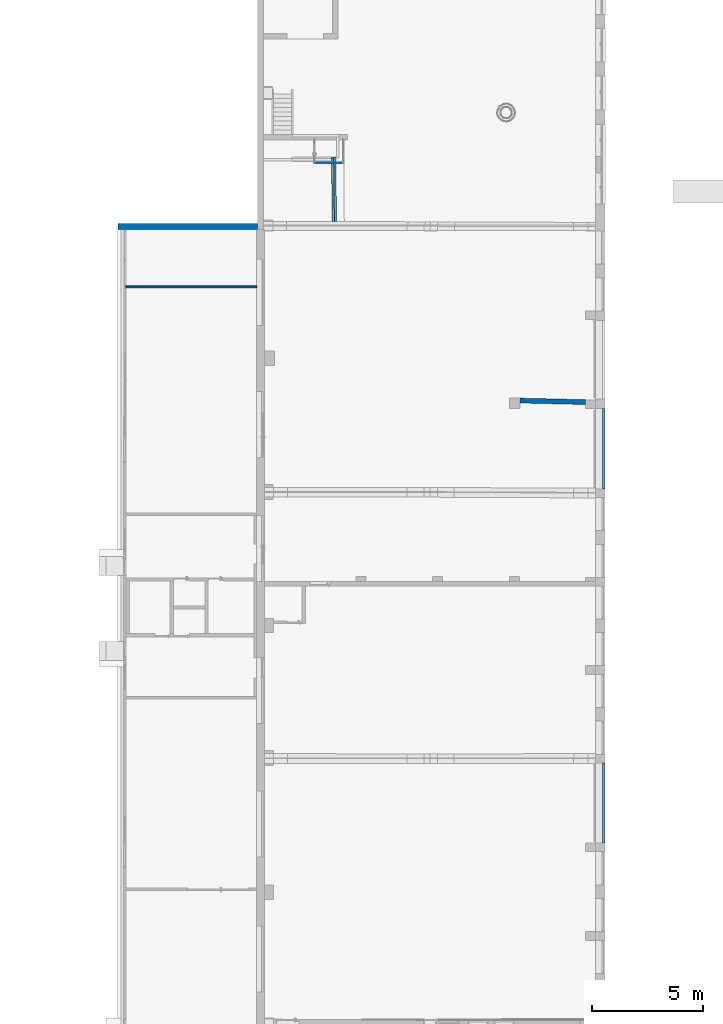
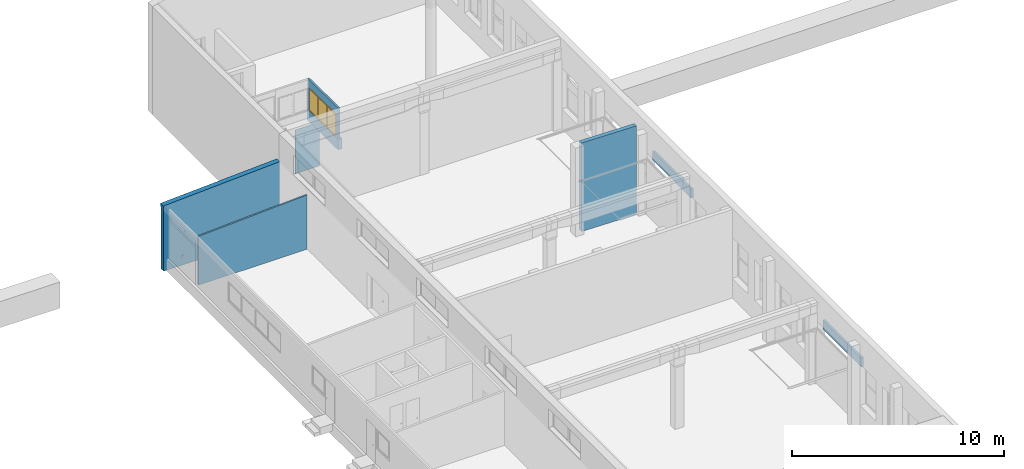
# One storey, part 154 of 301: 8 walls, 1 window, 1 opening.
"""IFC2X3 building model written with IfcOpenShell, lengths in millimetres."""

from ifc_helpers import new_model, entity, si_unit, converted_unit, derived_unit, money_unit, direction, frame, origin_with_axes, place, context, subcontext, project, spatial, open_shell, faceted_brep, surface_model, material, type_object, element, fill, save


model = new_model("IFC2X3")

# Units and contexts
model_context = context("Model", 3, precision=0.01, world=origin_with_axes(), true_north=direction((0.0, 1.0)))
body_context = subcontext(model_context, "Body", "Model", "MODEL_VIEW")
ifc_project = project(units=[si_unit("LENGTHUNIT", "METRE", prefix="MILLI"), si_unit("AREAUNIT", "SQUARE_METRE"), si_unit("VOLUMEUNIT", "CUBIC_METRE"), converted_unit("PLANEANGLEUNIT", "DEGREE", entity("IfcPlaneAngleMeasure", 0.0174532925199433), si_unit("PLANEANGLEUNIT", "RADIAN"), dimensions=[0, 0, 0, 0, 0, 0, 0]), money_unit("EUR"), converted_unit("TIMEUNIT", "Year", entity("IfcTimeMeasure", 31557600.0), si_unit("TIMEUNIT", "SECOND"), dimensions=[0, 0, 1, 0, 0, 0, 0]), si_unit("MASSUNIT", "GRAM", prefix="KILO"), si_unit("THERMODYNAMICTEMPERATUREUNIT", "DEGREE_CELSIUS"), si_unit("LUMINOUSINTENSITYUNIT", "LUMEN"), si_unit("ENERGYUNIT", "JOULE", prefix="MEGA"), derived_unit("THERMALCONDUCTANCEUNIT", [(si_unit("POWERUNIT", "WATT"), 1), (si_unit("LENGTHUNIT", "METRE"), -1), (si_unit("THERMODYNAMICTEMPERATUREUNIT", "KELVIN"), -1)]), derived_unit("SPECIFICHEATCAPACITYUNIT", [(si_unit("ENERGYUNIT", "JOULE"), 1), (si_unit("MASSUNIT", "GRAM", prefix="KILO"), -1), (si_unit("THERMODYNAMICTEMPERATUREUNIT", "KELVIN"), -1)]), derived_unit("MASSDENSITYUNIT", [(si_unit("MASSUNIT", "GRAM", prefix="KILO"), 1), (si_unit("VOLUMEUNIT", "CUBIC_METRE"), -1)])], contexts=[model_context])

# Site, building, storey
site_placement = place(None, frame((0.0, 0.0, 8650.0), z_axis=(0.0, 0.0, 1.0), x_axis=(1.0, 0.0, 0.0)))
site = spatial("IfcSite", under=ifc_project, at=site_placement, Name="43301:001:0844", CompositionType="ELEMENT")
building_placement = place(site_placement, origin_with_axes())
building = spatial("IfcBuilding", under=site, at=building_placement, Name="Kuressaare Ametikooli tuulikute mehaanikute õppekorpus", CompositionType="ELEMENT")
storey_placement = place(building_placement, origin_with_axes())
storey = spatial("IfcBuildingStorey", under=building, at=storey_placement, Name="1.korrus", CompositionType="ELEMENT", Elevation=0.0)

# Wall
ifc_material = material(Name="GENEERILINE - KONSTRUKTRIOON")
wall_type_1 = type_object("IfcWallType", Name="GENEERILINE - KONSTRUKTRIOON 200", PredefinedType="NOTDEFINED")
wall_1_placement = place(storey_placement, frame((91489.2846383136, 113585.0413980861, 2360.0), z_axis=(0.0, 0.0, 1.0), x_axis=(0.006282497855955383, -0.9999802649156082, 0.0)))
element("IfcWall", 1, at=wall_1_placement, inside=storey, type_object=wall_type_1, material=ifc_material, Name="SS-XX", context=body_context, shape_type="Brep", body=[
    faceted_brep([(-1.256524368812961, -200.0000000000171, 620.0000000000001), (2908.844766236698, -200.0000000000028, 620.0000000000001), (2910.774917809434, 0.0, 620.0000000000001), (0.0, 0.0, 620.0000000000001), (-1.256524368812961, -200.0000000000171, 0.0), (2908.844766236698, -200.0000000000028, 0.0), (2910.774917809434, 0.0, 0.0), (0.0, 0.0, 0.0)], [[[0, 1, 2, 3]], [[4, 5, 1, 0]], [[5, 6, 2, 1]], [[3, 2, 6, 7]], [[4, 0, 3, 7]], [[7, 6, 5, 4]]]),
])

# Wall, opening, window
wall_type_2 = type_object("IfcWallType", Name="GENEERILINE - KONSTRUKTRIOON 100", PredefinedType="NOTDEFINED")
wall_2_placement = place(storey_placement, frame((91383.90487116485, 113513.337023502, 2980.0), z_axis=(0.0, 0.0, 1.0), x_axis=(0.01138292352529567, -0.9999352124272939, 0.0)))
wall_2 = element("IfcWall", 2, at=wall_2_placement, inside=storey, type_object=wall_type_2, material=ifc_material, Name="SS-XX", context=body_context, shape_type="Brep", body=[
    faceted_brep([(142.8256483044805, 0.0, 1340.046836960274), (142.8256483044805, 0.0, 0.0), (0.0, 0.0, 0.0), (0.0, 0.0, 1780.000000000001), (2838.761730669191, 0.0, 1780.000000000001), (2838.761730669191, 0.0, 0.0), (2652.825648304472, 0.0, 0.0), (2652.825648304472, 0.0, 1340.046836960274), (142.8256483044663, -99.9999999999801, 1340.046836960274), (142.8256483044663, -99.9999999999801, 0.0), (-1.1383661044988, -99.9999999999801, 0.0), (-1.1383661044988, -99.9999999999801, 1780.000000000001), (2838.761730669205, -99.99999999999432, 1780.000000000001), (2838.761730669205, -99.99999999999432, 0.0), (2652.825648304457, -99.99999999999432, 0.0), (2652.825648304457, -99.9999999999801, 1340.046836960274)], [[[0, 1, 2, 3, 4, 5, 6, 7]], [[1, 0, 8, 9]], [[1, 9, 10, 2]], [[11, 3, 2, 10]], [[12, 4, 3, 11]], [[12, 13, 5, 4]], [[14, 6, 5, 13]], [[7, 6, 14, 15]], [[0, 7, 15, 8]], [[15, 14, 13, 12, 11, 10, 9, 8]]]),
])
opening_placement = place(wall_2_placement, frame((1397.825648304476, 0.0, 0.0), z_axis=(0.0, 0.0, 1.0), x_axis=(1.0, 0.0, 0.0)))
opening = element("IfcOpeningElement", 3, at=opening_placement, cuts=wall_2, Name="SA-XX", context=body_context, shape_type="Brep", body=[
    faceted_brep([(-1255.00000000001, -133.3113141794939, 1340.046836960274), (-1255.00000000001, -133.3113141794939, 0.0), (1254.999999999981, -133.3113141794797, 0.0), (1254.999999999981, -133.3113141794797, 1340.046836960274), (-1254.999999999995, 33.31131417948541, 1340.046836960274), (-1254.999999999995, 33.31131417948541, 0.0), (1254.999999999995, 33.31131417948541, 0.0), (1254.999999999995, 33.31131417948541, 1340.046836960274)], [[[0, 1, 2, 3]], [[4, 5, 1, 0]], [[5, 6, 2, 1]], [[6, 7, 3, 2]], [[7, 4, 0, 3]], [[6, 5, 4, 7]]]),
])
window_style = type_object("IfcWindowStyle", Name="Triple Window 27", ConstructionType="NOTDEFINED", OperationType="TRIPLE_PANEL_VERTICAL", ParameterTakesPrecedence=False, Sizeable=False)
window_placement = place(opening_placement, frame((1254.999999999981, 0.0, 0.0), z_axis=(0.0, 0.0, 1.0), x_axis=(-1.0, 0.0, 0.0)))
window = element("IfcWindow", 4, at=window_placement, inside=storey, type_object=window_style, Name="SA-XX", OverallHeight=1340.05, OverallWidth=2510.0, context=body_context, shape_type="SurfaceModel", body=[
    faceted_brep([(25.00000000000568, 75.00000000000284, 1290.046836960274), (0.0, 74.99999999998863, 1290.046836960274), (0.0, 0.0, 1290.046836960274), (49.99999999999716, 0.0, 1290.046836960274), (50.00000000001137, 49.99999999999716, 1290.046836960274), (25.00000000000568, 50.00000000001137, 1290.046836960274), (25.00000000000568, 75.00000000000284, 50.00000000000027), (0.0, 75.00000000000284, 50.00000000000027), (0.0, 0.0, 49.99999999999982), (49.99999999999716, 0.0, 49.99999999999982), (50.00000000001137, 49.99999999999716, 50.00000000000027), (25.00000000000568, 50.00000000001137, 50.00000000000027)], [[[0, 1, 2, 3, 4, 5]], [[6, 7, 1, 0]], [[1, 7, 8, 2]], [[2, 8, 9, 3]], [[4, 3, 9, 10]], [[10, 11, 5, 4]], [[5, 11, 6, 0]], [[11, 10, 9, 8, 7, 6]]]),
    faceted_brep([(2459.999999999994, 50.00000000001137, 1290.046836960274), (2459.999999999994, 0.0, 1290.046836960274), (2509.999999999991, 0.0, 1290.046836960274), (2509.999999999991, 75.00000000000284, 1290.046836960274), (2485.0, 75.00000000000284, 1290.046836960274), (2485.0, 49.99999999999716, 1290.046836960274), (2459.999999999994, 50.00000000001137, 50.00000000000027), (2459.999999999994, 0.0, 49.99999999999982), (2509.999999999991, 0.0, 49.99999999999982), (2509.999999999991, 75.00000000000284, 50.00000000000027), (2485.0, 75.00000000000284, 50.00000000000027), (2485.0, 49.99999999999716, 50.00000000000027)], [[[0, 1, 2, 3, 4, 5]], [[6, 7, 1, 0]], [[8, 2, 1, 7]], [[9, 3, 2, 8]], [[4, 3, 9, 10]], [[10, 11, 5, 4]], [[5, 11, 6, 0]], [[11, 10, 9, 8, 7, 6]]]),
    faceted_brep([(1629.999999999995, 49.99999999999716, 1290.046836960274), (1629.999999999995, 0.0, 1290.046836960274), (1710.000000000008, 0.0, 1290.046836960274), (1710.000000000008, 50.00000000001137, 1290.046836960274), (1684.999999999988, 49.99999999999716, 1290.046836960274), (1685.000000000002, 75.00000000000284, 1290.046836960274), (1655.000000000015, 74.99999999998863, 1290.046836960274), (1655.000000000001, 49.99999999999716, 1290.046836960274), (1629.999999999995, 49.99999999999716, 50.00000000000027), (1629.999999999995, 0.0, 49.99999999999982), (1710.000000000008, 0.0, 49.99999999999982), (1710.000000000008, 50.00000000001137, 50.00000000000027), (1684.999999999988, 49.99999999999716, 50.00000000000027), (1685.000000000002, 75.00000000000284, 50.00000000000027), (1655.000000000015, 74.99999999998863, 50.00000000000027), (1655.000000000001, 49.99999999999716, 50.00000000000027)], [[[0, 1, 2, 3, 4, 5, 6, 7]], [[8, 9, 1, 0]], [[10, 2, 1, 9]], [[3, 2, 10, 11]], [[11, 12, 4, 3]], [[4, 12, 13, 5]], [[6, 5, 13, 14]], [[14, 15, 7, 6]], [[7, 15, 8, 0]], [[15, 14, 13, 12, 11, 10, 9, 8]]]),
    faceted_brep([(855.000000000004, 75.00000000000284, 1290.046836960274), (825.0000000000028, 75.00000000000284, 1290.046836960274), (825.000000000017, 50.00000000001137, 1290.046836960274), (800.0000000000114, 49.99999999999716, 1290.046836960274), (800.0000000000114, 0.0, 1290.046836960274), (880.0000000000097, 0.0, 1290.046836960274), (880.0000000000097, 49.99999999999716, 1290.046836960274), (855.000000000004, 49.99999999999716, 1290.046836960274), (855.000000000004, 75.00000000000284, 50.00000000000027), (825.0000000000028, 75.00000000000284, 50.00000000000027), (825.000000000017, 50.00000000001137, 50.00000000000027), (800.0000000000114, 49.99999999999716, 50.00000000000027), (800.0000000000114, 0.0, 49.99999999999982), (880.0000000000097, 0.0, 49.99999999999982), (880.0000000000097, 49.99999999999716, 50.00000000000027), (855.000000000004, 49.99999999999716, 50.00000000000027)], [[[0, 1, 2, 3, 4, 5, 6, 7]], [[8, 9, 1, 0]], [[9, 10, 2, 1]], [[2, 10, 11, 3]], [[11, 12, 4, 3]], [[4, 12, 13, 5]], [[6, 5, 13, 14]], [[14, 15, 7, 6]], [[7, 15, 8, 0]], [[15, 14, 13, 12, 11, 10, 9, 8]]]),
    faceted_brep([(1629.999999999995, 49.99999999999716, 50.00000000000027), (1629.999999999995, 0.0, 49.99999999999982), (1710.000000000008, 0.0, 49.99999999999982), (1710.000000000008, 50.00000000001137, 50.00000000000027), (1684.999999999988, 49.99999999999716, 50.00000000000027), (1685.000000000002, 75.00000000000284, 50.00000000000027), (1655.000000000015, 74.99999999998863, 50.00000000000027), (1655.000000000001, 49.99999999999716, 50.00000000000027), (880.0000000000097, 49.99999999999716, 50.00000000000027), (880.0000000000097, 0.0, 49.99999999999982), (0.0, 0.0, 49.99999999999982), (0.0, 0.0, 0.0), (2509.999999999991, 0.0, 0.0), (2509.999999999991, 0.0, 49.99999999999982), (2459.999999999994, 0.0, 49.99999999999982), (800.0000000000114, 0.0, 49.99999999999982), (49.99999999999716, 0.0, 49.99999999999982), (2459.999999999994, 50.00000000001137, 50.00000000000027), (2485.0, 49.99999999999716, 50.00000000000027), (2485.0, 49.99999999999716, 24.99999999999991), (1684.999999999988, 49.99999999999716, 24.99999999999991), (1685.000000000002, 75.00000000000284, 24.99999999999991), (855.000000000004, 75.00000000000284, 24.99999999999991), (1655.000000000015, 74.99999999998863, 24.99999999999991), (2485.0, 75.00000000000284, 24.99999999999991), (2485.0, 75.00000000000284, 50.00000000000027), (2509.999999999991, 75.00000000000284, 50.00000000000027), (2509.999999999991, 75.00000000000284, 0.0), (0.0, 75.00000000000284, 0.0), (0.0, 75.00000000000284, 50.00000000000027), (25.00000000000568, 75.00000000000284, 50.00000000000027), (25.00000000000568, 75.00000000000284, 24.99999999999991), (825.0000000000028, 75.00000000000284, 24.99999999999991), (825.0000000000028, 75.00000000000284, 50.00000000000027), (855.000000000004, 75.00000000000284, 50.00000000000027), (1655.000000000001, 49.99999999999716, 24.99999999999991), (855.000000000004, 49.99999999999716, 24.99999999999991), (855.000000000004, 49.99999999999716, 50.00000000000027), (825.000000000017, 50.00000000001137, 50.00000000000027), (800.0000000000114, 49.99999999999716, 50.00000000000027), (50.00000000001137, 49.99999999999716, 50.00000000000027), (25.00000000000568, 50.00000000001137, 50.00000000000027), (25.00000000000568, 50.00000000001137, 24.99999999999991), (825.000000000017, 50.00000000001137, 24.99999999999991)], [[[0, 1, 2, 3, 4, 5, 6, 7]], [[8, 9, 1, 0]], [[10, 11, 12, 13, 14, 2, 1, 9, 15, 16]], [[3, 2, 14, 17]], [[18, 19, 20, 4, 3, 17]], [[4, 20, 21, 5]], [[22, 23, 6, 5, 21, 24, 25, 26, 27, 28, 29, 30, 31, 32, 33, 34]], [[23, 35, 7, 6]], [[7, 35, 36, 37, 8, 0]], [[37, 34, 33, 38, 39, 15, 9, 8]], [[29, 28, 11, 10]], [[28, 27, 12, 11]], [[27, 26, 13, 12]], [[17, 14, 13, 26, 25, 18]], [[40, 16, 15, 39]], [[41, 30, 29, 10, 16, 40]], [[24, 19, 18, 25]], [[21, 20, 19, 24]], [[22, 36, 35, 23]], [[41, 42, 31, 30]], [[31, 42, 43, 32]], [[32, 43, 38, 33]], [[37, 36, 22, 34]], [[38, 43, 42, 41, 40, 39]]]),
    faceted_brep([(855.000000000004, 75.00000000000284, 1290.046836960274), (825.0000000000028, 75.00000000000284, 1290.046836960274), (825.0000000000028, 75.00000000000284, 1315.046836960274), (25.00000000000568, 75.00000000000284, 1315.046836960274), (25.00000000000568, 75.00000000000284, 1290.046836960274), (0.0, 74.99999999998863, 1290.046836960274), (0.0, 74.99999999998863, 1340.046836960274), (2509.999999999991, 75.00000000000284, 1340.046836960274), (2509.999999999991, 75.00000000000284, 1290.046836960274), (2485.0, 75.00000000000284, 1290.046836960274), (2485.0, 75.00000000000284, 1315.046836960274), (1685.000000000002, 75.00000000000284, 1315.046836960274), (1685.000000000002, 75.00000000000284, 1290.046836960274), (1655.000000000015, 74.99999999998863, 1290.046836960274), (1655.000000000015, 74.99999999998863, 1315.046836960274), (855.000000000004, 75.00000000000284, 1315.046836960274), (855.000000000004, 49.99999999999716, 1290.046836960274), (880.0000000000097, 49.99999999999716, 1290.046836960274), (880.0000000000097, 0.0, 1290.046836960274), (800.0000000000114, 0.0, 1290.046836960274), (800.0000000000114, 49.99999999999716, 1290.046836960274), (825.000000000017, 50.00000000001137, 1290.046836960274), (825.000000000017, 50.00000000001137, 1315.046836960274), (25.00000000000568, 50.00000000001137, 1315.046836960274), (25.00000000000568, 50.00000000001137, 1290.046836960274), (50.00000000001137, 49.99999999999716, 1290.046836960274), (49.99999999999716, 0.0, 1290.046836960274), (0.0, 0.0, 1290.046836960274), (0.0, 0.0, 1340.046836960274), (2509.999999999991, 0.0, 1340.046836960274), (2509.999999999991, 0.0, 1290.046836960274), (2485.0, 49.99999999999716, 1290.046836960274), (2459.999999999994, 0.0, 1290.046836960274), (2459.999999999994, 50.00000000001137, 1290.046836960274), (2485.0, 49.99999999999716, 1315.046836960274), (1684.999999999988, 49.99999999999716, 1315.046836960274), (1684.999999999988, 49.99999999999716, 1290.046836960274), (1655.000000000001, 49.99999999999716, 1290.046836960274), (1710.000000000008, 50.00000000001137, 1290.046836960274), (1710.000000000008, 0.0, 1290.046836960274), (1629.999999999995, 0.0, 1290.046836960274), (1629.999999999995, 49.99999999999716, 1290.046836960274), (1655.000000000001, 49.99999999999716, 1315.046836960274), (855.000000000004, 49.99999999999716, 1315.046836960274)], [[[0, 1, 2, 3, 4, 5, 6, 7, 8, 9, 10, 11, 12, 13, 14, 15]], [[16, 17, 18, 19, 20, 21, 1, 0]], [[1, 21, 22, 2]], [[2, 22, 23, 3]], [[3, 23, 24, 4]], [[24, 25, 26, 27, 5, 4]], [[6, 5, 27, 28]], [[7, 6, 28, 29]], [[8, 7, 29, 30]], [[31, 9, 8, 30, 32, 33]], [[9, 31, 34, 10]], [[10, 34, 35, 11]], [[11, 35, 36, 12]], [[37, 13, 12, 36, 38, 39, 40, 41]], [[13, 37, 42, 14]], [[14, 42, 43, 15]], [[15, 43, 16, 0]], [[41, 17, 16, 43, 42, 37]], [[41, 40, 18, 17]], [[18, 40, 39, 32, 30, 29, 28, 27, 26, 19]], [[20, 19, 26, 25]], [[20, 25, 24, 23, 22, 21]], [[33, 32, 39, 38]], [[33, 38, 36, 35, 34, 31]]]),
    faceted_brep([(75.00000000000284, 50.00000000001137, 1265.046836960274), (75.00000000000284, 100.0000000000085, 1265.046836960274), (25.00000000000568, 100.0000000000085, 1265.046836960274), (25.00000000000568, 50.00000000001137, 1265.046836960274), (75.00000000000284, 50.00000000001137, 75.00000000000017), (75.00000000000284, 100.0000000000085, 75.00000000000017), (25.00000000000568, 100.0000000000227, 75.00000000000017), (25.00000000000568, 50.00000000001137, 75.00000000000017)], [[[0, 1, 2, 3]], [[4, 5, 1, 0]], [[1, 5, 6, 2]], [[3, 2, 6, 7]], [[0, 3, 7, 4]], [[7, 6, 5, 4]]]),
    faceted_brep([(775.0000000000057, 50.00000000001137, 75.00000000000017), (775.0000000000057, 100.0000000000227, 75.00000000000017), (825.0000000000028, 100.0000000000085, 75.00000000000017), (825.000000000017, 50.00000000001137, 75.00000000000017), (775.0000000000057, 50.00000000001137, 1265.046836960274), (775.0000000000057, 100.0000000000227, 1265.046836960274), (825.0000000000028, 100.0000000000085, 1265.046836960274), (825.000000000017, 50.00000000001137, 1265.046836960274)], [[[0, 1, 2, 3]], [[4, 5, 1, 0]], [[1, 5, 6, 2]], [[3, 2, 6, 7]], [[0, 3, 7, 4]], [[7, 6, 5, 4]]]),
    faceted_brep([(825.000000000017, 50.00000000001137, 24.99999999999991), (825.0000000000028, 100.0000000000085, 24.99999999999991), (825.0000000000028, 100.0000000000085, 75.00000000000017), (825.000000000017, 50.00000000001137, 75.00000000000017), (25.00000000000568, 50.00000000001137, 24.99999999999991), (25.00000000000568, 100.0000000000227, 24.99999999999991), (25.00000000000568, 100.0000000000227, 75.00000000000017), (75.00000000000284, 100.0000000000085, 75.00000000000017), (775.0000000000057, 100.0000000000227, 75.00000000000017), (775.0000000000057, 50.00000000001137, 75.00000000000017), (75.00000000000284, 50.00000000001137, 75.00000000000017), (25.00000000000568, 50.00000000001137, 75.00000000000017)], [[[0, 1, 2, 3]], [[4, 5, 1, 0]], [[1, 5, 6, 7, 8, 2]], [[3, 2, 8, 9]], [[0, 3, 9, 10, 11, 4]], [[11, 6, 5, 4]], [[10, 7, 6, 11]], [[9, 8, 7, 10]]]),
    faceted_brep([(25.00000000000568, 50.00000000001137, 1315.046836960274), (25.00000000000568, 100.0000000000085, 1315.046836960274), (25.00000000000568, 100.0000000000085, 1265.046836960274), (25.00000000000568, 50.00000000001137, 1265.046836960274), (825.000000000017, 50.00000000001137, 1315.046836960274), (825.0000000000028, 100.0000000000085, 1315.046836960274), (825.0000000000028, 100.0000000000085, 1265.046836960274), (775.0000000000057, 100.0000000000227, 1265.046836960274), (75.00000000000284, 100.0000000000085, 1265.046836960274), (75.00000000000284, 50.00000000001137, 1265.046836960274), (775.0000000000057, 50.00000000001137, 1265.046836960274), (825.000000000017, 50.00000000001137, 1265.046836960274)], [[[0, 1, 2, 3]], [[4, 5, 1, 0]], [[1, 5, 6, 7, 8, 2]], [[3, 2, 8, 9]], [[0, 3, 9, 10, 11, 4]], [[11, 6, 5, 4]], [[10, 7, 6, 11]], [[9, 8, 7, 10]]]),
    surface_model("IfcShellBasedSurfaceModel", [(75.00000000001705, 64.99999999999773, 75.00000000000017), (775.0000000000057, 64.99999999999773, 75.00000000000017), (775.0000000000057, 64.99999999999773, 1265.046836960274), (75.00000000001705, 64.99999999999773, 1265.046836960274)], [open_shell([[[0, 1, 2, 3]]])]),
    surface_model("IfcShellBasedSurfaceModel", [(75.00000000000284, 85.00000000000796, 75.00000000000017), (75.00000000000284, 85.00000000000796, 1265.046836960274), (775.0000000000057, 85.00000000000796, 1265.046836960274), (775.0000000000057, 85.00000000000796, 75.00000000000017)], [open_shell([[[0, 1, 2, 3]]])]),
    faceted_brep([(905.0000000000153, 50.00000000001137, 1265.046836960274), (905.0000000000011, 99.99999999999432, 1265.046836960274), (855.0000000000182, 99.99999999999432, 1265.046836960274), (855.000000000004, 49.99999999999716, 1265.046836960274), (905.0000000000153, 50.00000000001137, 75.00000000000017), (905.0000000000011, 99.99999999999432, 75.00000000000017), (855.0000000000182, 99.99999999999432, 75.00000000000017), (855.000000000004, 49.99999999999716, 75.00000000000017)], [[[0, 1, 2, 3]], [[4, 5, 1, 0]], [[1, 5, 6, 2]], [[3, 2, 6, 7]], [[0, 3, 7, 4]], [[7, 6, 5, 4]]]),
    faceted_brep([(1605.000000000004, 50.00000000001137, 75.00000000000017), (1604.99999999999, 99.99999999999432, 75.00000000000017), (1655.000000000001, 100.0000000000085, 75.00000000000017), (1655.000000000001, 49.99999999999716, 75.00000000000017), (1605.000000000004, 50.00000000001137, 1265.046836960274), (1604.99999999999, 99.99999999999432, 1265.046836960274), (1655.000000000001, 100.0000000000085, 1265.046836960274), (1655.000000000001, 49.99999999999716, 1265.046836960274)], [[[0, 1, 2, 3]], [[4, 5, 1, 0]], [[1, 5, 6, 2]], [[3, 2, 6, 7]], [[0, 3, 7, 4]], [[7, 6, 5, 4]]]),
    faceted_brep([(1655.000000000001, 49.99999999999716, 24.99999999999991), (1655.000000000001, 100.0000000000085, 24.99999999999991), (1655.000000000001, 100.0000000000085, 75.00000000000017), (1655.000000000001, 49.99999999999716, 75.00000000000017), (855.000000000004, 49.99999999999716, 24.99999999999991), (855.0000000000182, 99.99999999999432, 24.99999999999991), (855.0000000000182, 99.99999999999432, 75.00000000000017), (905.0000000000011, 99.99999999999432, 75.00000000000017), (1604.99999999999, 99.99999999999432, 75.00000000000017), (1605.000000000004, 50.00000000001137, 75.00000000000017), (905.0000000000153, 50.00000000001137, 75.00000000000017), (855.000000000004, 49.99999999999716, 75.00000000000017)], [[[0, 1, 2, 3]], [[4, 5, 1, 0]], [[1, 5, 6, 7, 8, 2]], [[3, 2, 8, 9]], [[0, 3, 9, 10, 11, 4]], [[11, 6, 5, 4]], [[10, 7, 6, 11]], [[9, 8, 7, 10]]]),
    faceted_brep([(855.000000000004, 49.99999999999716, 1315.046836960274), (855.0000000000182, 99.99999999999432, 1315.046836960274), (855.0000000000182, 99.99999999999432, 1265.046836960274), (855.000000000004, 49.99999999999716, 1265.046836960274), (1655.000000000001, 49.99999999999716, 1315.046836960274), (1655.000000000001, 100.0000000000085, 1315.046836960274), (1655.000000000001, 100.0000000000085, 1265.046836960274), (1604.99999999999, 99.99999999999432, 1265.046836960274), (905.0000000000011, 99.99999999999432, 1265.046836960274), (905.0000000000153, 50.00000000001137, 1265.046836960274), (1605.000000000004, 50.00000000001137, 1265.046836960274), (1655.000000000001, 49.99999999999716, 1265.046836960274)], [[[0, 1, 2, 3]], [[4, 5, 1, 0]], [[1, 5, 6, 7, 8, 2]], [[3, 2, 8, 9]], [[0, 3, 9, 10, 11, 4]], [[11, 6, 5, 4]], [[10, 7, 6, 11]], [[9, 8, 7, 10]]]),
    surface_model("IfcShellBasedSurfaceModel", [(905.0000000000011, 65.00000000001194, 75.00000000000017), (1604.99999999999, 65.00000000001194, 75.00000000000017), (1604.99999999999, 65.00000000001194, 1265.046836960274), (905.0000000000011, 65.00000000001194, 1265.046836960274)], [open_shell([[[0, 1, 2, 3]]])]),
    surface_model("IfcShellBasedSurfaceModel", [(905.0000000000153, 84.99999999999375, 75.00000000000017), (905.0000000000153, 84.99999999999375, 1265.046836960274), (1605.000000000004, 85.00000000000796, 1265.046836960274), (1605.000000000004, 85.00000000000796, 75.00000000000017)], [open_shell([[[0, 1, 2, 3]]])]),
    faceted_brep([(1735.0, 49.99999999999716, 1265.046836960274), (1735.0, 99.99999999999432, 1265.046836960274), (1685.000000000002, 100.0000000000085, 1265.046836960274), (1684.999999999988, 49.99999999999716, 1265.046836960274), (1735.0, 49.99999999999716, 75.00000000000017), (1735.0, 99.99999999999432, 75.00000000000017), (1685.000000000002, 100.0000000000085, 75.00000000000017), (1684.999999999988, 49.99999999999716, 75.00000000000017)], [[[0, 1, 2, 3]], [[4, 5, 1, 0]], [[1, 5, 6, 2]], [[3, 2, 6, 7]], [[0, 3, 7, 4]], [[7, 6, 5, 4]]]),
    faceted_brep([(2435.000000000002, 49.99999999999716, 75.00000000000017), (2435.000000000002, 100.0000000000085, 75.00000000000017), (2485.0, 99.99999999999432, 75.00000000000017), (2485.0, 49.99999999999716, 75.00000000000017), (2435.000000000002, 49.99999999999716, 1265.046836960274), (2435.000000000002, 100.0000000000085, 1265.046836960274), (2485.0, 99.99999999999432, 1265.046836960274), (2485.0, 49.99999999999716, 1265.046836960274)], [[[0, 1, 2, 3]], [[4, 5, 1, 0]], [[1, 5, 6, 2]], [[3, 2, 6, 7]], [[0, 3, 7, 4]], [[7, 6, 5, 4]]]),
    faceted_brep([(2485.0, 49.99999999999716, 24.99999999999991), (2485.0, 99.99999999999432, 24.99999999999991), (2485.0, 99.99999999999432, 75.00000000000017), (2485.0, 49.99999999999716, 75.00000000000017), (1684.999999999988, 49.99999999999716, 24.99999999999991), (1685.000000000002, 100.0000000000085, 24.99999999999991), (1685.000000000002, 100.0000000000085, 75.00000000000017), (1735.0, 99.99999999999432, 75.00000000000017), (2435.000000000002, 100.0000000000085, 75.00000000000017), (2435.000000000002, 49.99999999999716, 75.00000000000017), (1735.0, 49.99999999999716, 75.00000000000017), (1684.999999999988, 49.99999999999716, 75.00000000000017)], [[[0, 1, 2, 3]], [[4, 5, 1, 0]], [[1, 5, 6, 7, 8, 2]], [[3, 2, 8, 9]], [[0, 3, 9, 10, 11, 4]], [[11, 6, 5, 4]], [[10, 7, 6, 11]], [[9, 8, 7, 10]]]),
    faceted_brep([(1684.999999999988, 49.99999999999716, 1315.046836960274), (1685.000000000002, 100.0000000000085, 1315.046836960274), (1685.000000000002, 100.0000000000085, 1265.046836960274), (1684.999999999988, 49.99999999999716, 1265.046836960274), (2485.0, 49.99999999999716, 1315.046836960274), (2485.0, 99.99999999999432, 1315.046836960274), (2485.0, 99.99999999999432, 1265.046836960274), (2435.000000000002, 100.0000000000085, 1265.046836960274), (1735.0, 99.99999999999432, 1265.046836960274), (1735.0, 49.99999999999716, 1265.046836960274), (2435.000000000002, 49.99999999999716, 1265.046836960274), (2485.0, 49.99999999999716, 1265.046836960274)], [[[0, 1, 2, 3]], [[4, 5, 1, 0]], [[1, 5, 6, 7, 8, 2]], [[3, 2, 8, 9]], [[0, 3, 9, 10, 11, 4]], [[11, 6, 5, 4]], [[10, 7, 6, 11]], [[9, 8, 7, 10]]]),
    surface_model("IfcShellBasedSurfaceModel", [(1735.0, 64.99999999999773, 75.00000000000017), (2435.000000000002, 65.00000000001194, 75.00000000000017), (2435.000000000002, 65.00000000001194, 1265.046836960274), (1735.0, 64.99999999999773, 1265.046836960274)], [open_shell([[[0, 1, 2, 3]]])]),
    surface_model("IfcShellBasedSurfaceModel", [(1735.000000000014, 85.00000000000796, 75.00000000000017), (1735.000000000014, 85.00000000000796, 1265.046836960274), (2435.000000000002, 84.99999999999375, 1265.046836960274), (2435.000000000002, 84.99999999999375, 75.00000000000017)], [open_shell([[[0, 1, 2, 3]]])]),
])
fill(opening, window)

# Walls
wall_type_3 = type_object("IfcWallType", Name="GENEERILINE - KONSTRUKTRIOON 85", PredefinedType="NOTDEFINED")
wall_3_placement = place(storey_placement, frame((87898.75644683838, 107676.180652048, -330.0), z_axis=(0.0, 0.0, 1.0), x_axis=(-1.0, 0.0, 0.0)))
element("IfcWall", 5, at=wall_3_placement, inside=storey, type_object=wall_type_3, material=ifc_material, context=body_context, shape_type="Brep", body=[
    faceted_brep([(5906.576786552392, -84.99999999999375, 2801.02735563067), (0.0, -84.99999999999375, 3120.912574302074), (0.0, -84.99999999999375, 0.0), (5906.576786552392, -84.99999999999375, 0.0), (0.0, 0.0, 3120.890900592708), (5906.577437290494, 0.0, 2801.005646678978), (0.0, 0.0, 0.0), (5906.577437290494, 0.0, 0.0)], [[[0, 1, 2, 3]], [[4, 1, 0, 5]], [[1, 4, 6, 2]], [[3, 2, 6, 7]], [[5, 0, 3, 7]], [[4, 5, 7, 6]]]),
])
wall_type_4 = type_object("IfcWallType", Name="GENEERILINE - KONSTRUKTRIOON 270", PredefinedType="NOTDEFINED")
wall_4_placement = place(storey_placement, frame((87938.74484548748, 110588.8442993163, -1000.0), z_axis=(0.0, 0.0, 1.0), x_axis=(-0.9999999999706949, 7.655742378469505e-06, 0.0)))
element("IfcWall", 6, at=wall_4_placement, inside=storey, type_object=wall_type_4, material=ifc_material, Name="VS-XX", context=body_context, shape_type="Brep", body=[
    faceted_brep([(0.0, 269.9999999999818, 4091.93050871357), (6329.908750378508, 269.999999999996, 3749.118716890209), (6313.806213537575, 269.9999999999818, 3451.79057870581), (6313.806213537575, 269.999999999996, 0.0), (0.0, 269.9999999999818, 0.0), (39.98633159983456, 269.9999999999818, 470.0000173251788), (5946.543537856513, 269.9999999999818, 470.0000173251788), (5946.543537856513, 269.9999999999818, 670.0000173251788), (39.98633159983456, 269.9999999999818, 670.0000173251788), (0.0, 0.0, 4091.99946656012), (6329.910817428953, 0.0, 3749.187562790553), (6313.80828058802, 0.0, 3451.859424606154), (6313.80828058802, 0.0, 0.0), (0.0, 0.0, 0.0), (5946.543537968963, 269.8946998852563, 470.0000173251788), (39.98633240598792, 269.8946998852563, 470.0000173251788), (5946.543537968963, 269.8946998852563, 670.0000173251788), (39.98633240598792, 269.8946998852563, 670.0000173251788)], [[[0, 1, 2, 3, 4], [5, 6, 7, 8]], [[1, 0, 9, 10]], [[2, 1, 10, 11]], [[3, 2, 11, 12]], [[13, 4, 3, 12]], [[0, 4, 13, 9]], [[14, 6, 5, 15]], [[16, 7, 6, 14]], [[17, 8, 7, 16]], [[15, 5, 8, 17]], [[10, 9, 13, 12, 11]], [[14, 15, 17, 16]]]),
])
wall_type_5 = type_object("IfcWallType", Name="GENEERILINE - KONSTRUKTRIOON 220", PredefinedType="NOTDEFINED")
wall_5_placement = place(storey_placement, frame((99801.51367187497, 102688.6148071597, -330.0), z_axis=(0.0, 0.0, 1.0), x_axis=(0.9997218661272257, -0.02358368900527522, 0.0)))
element("IfcWall", 7, at=wall_5_placement, inside=storey, type_object=wall_type_5, material=ifc_material, Name="SS-XX", context=body_context, shape_type="Brep", body=[
    faceted_brep([(2967.220833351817, -219.9999999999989, 0.0), (2967.220833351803, -16.83424524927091, 0.0), (2967.220833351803, -16.83424524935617, 4630.0), (2967.220833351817, -14.02277410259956, 4630.0), (2967.220833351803, -14.02277410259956, 0.0), (2967.220833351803, 0.0, 0.0), (2967.220833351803, 0.0, 5089.999999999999), (2967.220833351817, -219.9999999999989, 5089.999999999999), (2967.154546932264, -14.02433781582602, 0.0), (5.189855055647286, -219.9999999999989, 0.0), (0.0, 0.0, 0.0), (2967.154546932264, -14.02433781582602, 4630.0), (0.0, 0.0, 5090.0), (5.189855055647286, -219.9999999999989, 5090.0)], [[[0, 1, 2, 3, 4, 5, 6, 7]], [[4, 8, 1, 0, 9, 10, 5]], [[2, 1, 8, 11]], [[11, 3, 2]], [[8, 4, 3, 11]], [[5, 10, 12, 6]], [[6, 12, 13, 7]], [[7, 13, 9, 0]], [[9, 13, 12, 10]]]),
])
wall_type_6 = type_object("IfcWallType", Name="GENEERILINE - KONSTRUKTRIOON 120", PredefinedType="NOTDEFINED")
wall_6_placement = place(storey_placement, frame((103647.5122070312, 102214.6179199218, 2640.0), z_axis=(0.0, 0.0, 1.0), x_axis=(0.0, -1.0, 0.0)))
element("IfcWall", 8, at=wall_6_placement, inside=storey, type_object=wall_type_6, material=ifc_material, Name="VS-XX", context=body_context, shape_type="Brep", body=[
    faceted_brep([(0.0, -120.0000000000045, 520.0), (3625.000000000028, -120.0000000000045, 520.0), (3625.000000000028, 0.0, 520.0), (0.0, 0.0, 520.0), (0.0, -120.0000000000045, 0.0), (3625.000000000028, -120.0000000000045, 0.0), (3625.000000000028, 0.0, 0.0), (0.0, 0.0, 0.0)], [[[0, 1, 2, 3]], [[4, 5, 1, 0]], [[2, 1, 5, 6]], [[3, 2, 6, 7]], [[4, 0, 3, 7]], [[7, 6, 5, 4]]]),
])
wall_7_placement = place(storey_placement, frame((103647.5122070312, 86190.60203897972, 2640.0), z_axis=(0.0, 0.0, 1.0), x_axis=(0.0, -1.0, 0.0)))
element("IfcWall", 9, at=wall_7_placement, inside=storey, type_object=wall_type_6, material=ifc_material, Name="VS-XX", context=body_context, shape_type="Brep", body=[
    faceted_brep([(0.0, -120.0000000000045, 520.0), (3610.0, -120.0000000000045, 520.0), (3610.0, 0.0, 520.0), (0.0, 0.0, 520.0), (0.0, -120.0000000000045, 0.0), (3610.0, -120.0000000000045, 0.0), (3610.0, 0.0, 0.0), (0.0, 0.0, 0.0)], [[[0, 1, 2, 3]], [[4, 5, 1, 0]], [[2, 1, 5, 6]], [[3, 2, 6, 7]], [[4, 0, 3, 7]], [[7, 6, 5, 4]]]),
])
wall_type_7 = type_object("IfcWallType", Name="GENEERILINE - KONSTRUKTRIOON 25", PredefinedType="NOTDEFINED")
wall_8_placement = place(storey_placement, frame((91835.70812907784, 113308.3724975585, -330.0), z_axis=(0.0, 0.0, 1.0), x_axis=(-1.0, 0.0, 0.0)))
element("IfcWall", 10, at=wall_8_placement, inside=storey, type_object=wall_type_7, material=ifc_material, Name="SS-XX", context=body_context, shape_type="Brep", body=[
    faceted_brep([(1328.755489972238, -25.00000000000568, 2515.0), (1328.755489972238, 0.0, 2515.0), (25.00000000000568, 0.0, 2515.0), (25.00000000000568, -25.00000000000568, 2515.0), (1328.755489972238, -25.00000000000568, 0.0), (1328.755489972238, 0.0, 0.0), (25.00000000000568, 0.0, 0.0), (25.00000000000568, -25.00000000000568, 0.0)], [[[0, 1, 2, 3]], [[1, 0, 4, 5]], [[1, 5, 6, 2]], [[7, 3, 2, 6]], [[4, 0, 3, 7]], [[5, 4, 7, 6]]]),
])

save(model, "model.ifc")
